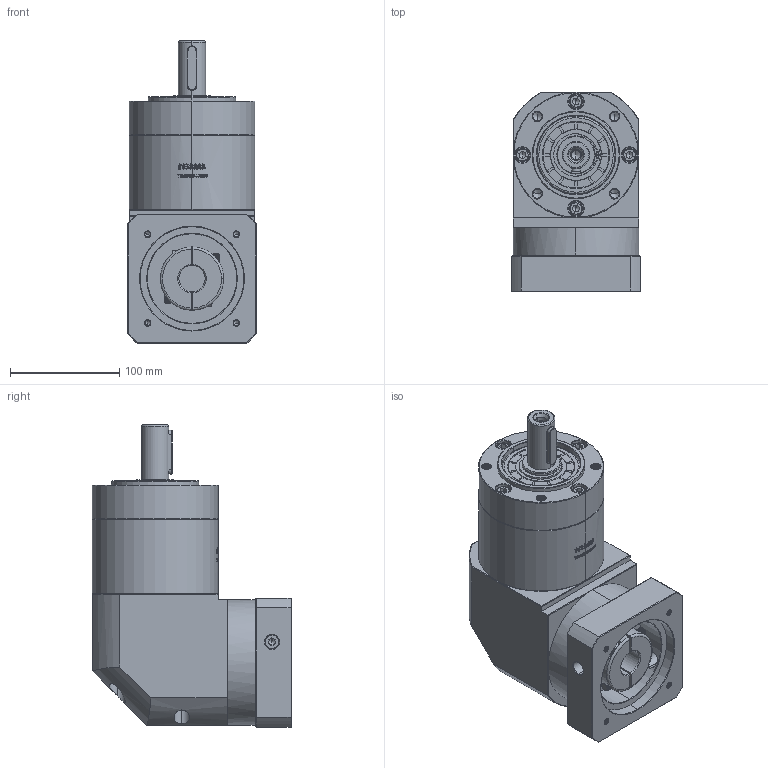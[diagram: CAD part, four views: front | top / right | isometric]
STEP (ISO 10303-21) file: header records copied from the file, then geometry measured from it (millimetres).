
FILE_DESCRIPTION (( 'STEP AP214' ), '1' );
FILE_NAME ('ZER120A-D25-L2-24-95-115-M6.step', '2023-03-14T08:17:15', ( '' ), ( '' ), 'SwSTEP 2.0', 'SolidWorks 2016', '' );
FILE_SCHEMA (( 'AUTOMOTIVE_DESIGN' ));
Length unit declared in the file: millimetre
Products named in the file (1): ZER120A-D25-L2-24-95-115-M6
Bounding box: 118 x 182.4 x 276.5 mm (x, y, z)
Volume: 3032173.6 mm3; surface area: 240881.7 mm2
Topology: 6 solids, 6 shells, 2941 faces, 7881 edges, 5083 vertices
Faces by surface type: plane 1462, bspline 622, cylinder 517, cone 332, torus 8
Entity records: 169493 total; most frequent: CARTESIAN_POINT 70256, ORIENTED_EDGE 15686, DIRECTION 11185, EDGE_CURVE 7843, VERTEX_POINT 5083, VECTOR 4781, LINE 4781, AXIS2_PLACEMENT_3D 3202
